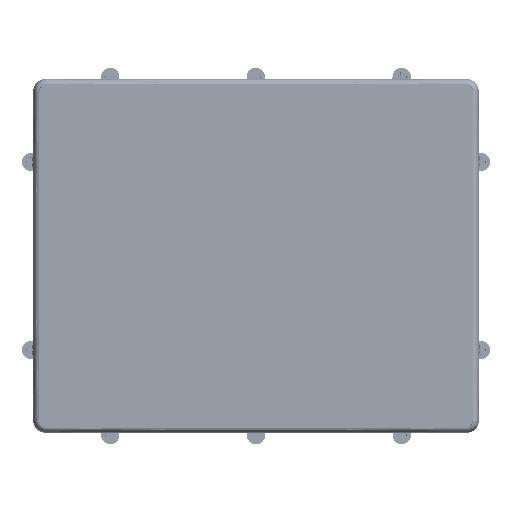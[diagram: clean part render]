
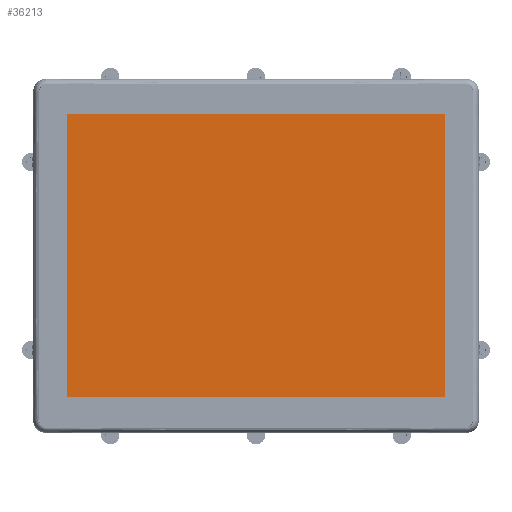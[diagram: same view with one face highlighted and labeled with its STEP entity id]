
A CAD part, top view. The second image highlights one B-rep face of the part: STEP entity #36213.
In plain terms, the highlighted planar face has unit normal (0, 0, 1).
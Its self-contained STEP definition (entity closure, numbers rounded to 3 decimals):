
#11913=DIRECTION('',(0.,-1.,0.));
#11914=VECTOR('',#11913,228.9);
#11915=CARTESIAN_POINT('',(-152.5,114.45,5.92));
#11916=LINE('',#11915,#11914);
#11929=DIRECTION('',(1.,0.,0.));
#11930=VECTOR('',#11929,305.);
#11931=CARTESIAN_POINT('',(-152.5,-114.45,5.92));
#11932=LINE('',#11931,#11930);
#11941=DIRECTION('',(0.,1.,0.));
#11942=VECTOR('',#11941,228.9);
#11943=CARTESIAN_POINT('',(152.5,-114.45,5.92));
#11944=LINE('',#11943,#11942);
#11953=DIRECTION('',(-1.,0.,0.));
#11954=VECTOR('',#11953,305.);
#11955=CARTESIAN_POINT('',(152.5,114.45,5.92));
#11956=LINE('',#11955,#11954);
#21343=CARTESIAN_POINT('',(152.5,114.45,5.92));
#21344=CARTESIAN_POINT('',(-152.5,114.45,5.92));
#21345=VERTEX_POINT('',#21343);
#21346=VERTEX_POINT('',#21344);
#21347=CARTESIAN_POINT('',(152.5,-114.45,5.92));
#21348=VERTEX_POINT('',#21347);
#21349=CARTESIAN_POINT('',(-152.5,-114.45,5.92));
#21350=VERTEX_POINT('',#21349);
#36202=CARTESIAN_POINT('',(0.,0.,5.92));
#36203=DIRECTION('',(0.,0.,1.));
#36204=DIRECTION('',(1.,0.,0.));
#36205=AXIS2_PLACEMENT_3D('',#36202,#36203,#36204);
#36206=PLANE('',#36205);
#36207=ORIENTED_EDGE('',*,*,#36190,.F.);
#36208=ORIENTED_EDGE('',*,*,#36170,.F.);
#36209=ORIENTED_EDGE('',*,*,#36149,.F.);
#36210=ORIENTED_EDGE('',*,*,#36128,.F.);
#36211=EDGE_LOOP('',(#36207,#36208,#36209,#36210));
#36212=FACE_OUTER_BOUND('',#36211,.F.);
#36213=ADVANCED_FACE('',(#36212),#36206,.T.);
#36128=EDGE_CURVE('',#21346,#21350,#11916,.T.);
#36149=EDGE_CURVE('',#21350,#21348,#11932,.T.);
#36170=EDGE_CURVE('',#21348,#21345,#11944,.T.);
#36190=EDGE_CURVE('',#21345,#21346,#11956,.T.);
